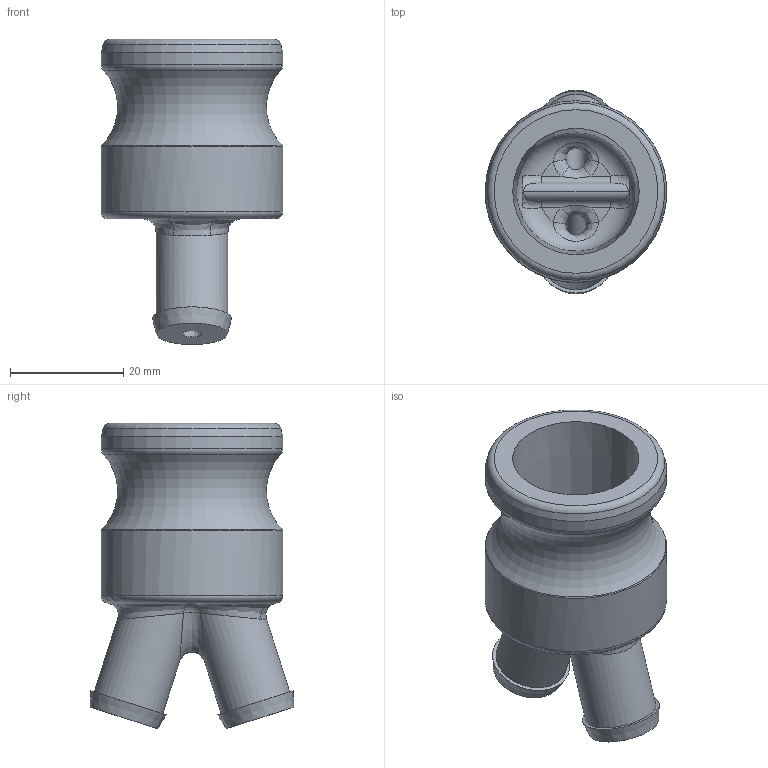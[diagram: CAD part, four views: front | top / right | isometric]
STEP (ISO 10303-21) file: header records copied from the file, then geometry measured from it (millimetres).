
FILE_DESCRIPTION(/* description */ ('Alibre Inc.'),/* implementation_level */ '2;1');
FILE_NAME(/* name */ 'export0',/* time_stamp */ '2017-02-19T14:03:37-05:00',/* author */ (''),/* organization */ (''),/* preprocessor_version */ 'ST-DEVELOPER v14',/* originating_system */ 'Alibre',/* authorisation */ '');
FILE_SCHEMA (('CONFIG_CONTROL_DESIGN'));
Length unit declared in the file: centimetre
Products named in the file (1): ID_1
Bounding box: 32.11 x 36.05 x 53.97 mm (x, y, z)
Volume: 17136.7 mm3; surface area: 8686.6 mm2
Topology: 1 solids, 1 shells, 55 faces, 132 edges, 78 vertices
Faces by surface type: bspline 19, plane 14, cylinder 10, torus 5, cone 5, sphere 2
Full cylindrical faces by diameter (mm): 3.572 x2, 12.7 x2, 32.106 x2
Entity records: 3859 total; most frequent: CARTESIAN_POINT 2733, ORIENTED_EDGE 216, DIRECTION 177, EDGE_CURVE 108, AXIS2_PLACEMENT_3D 92, EDGE_LOOP 76, FACE_BOUND 76, VERTEX_POINT 72
